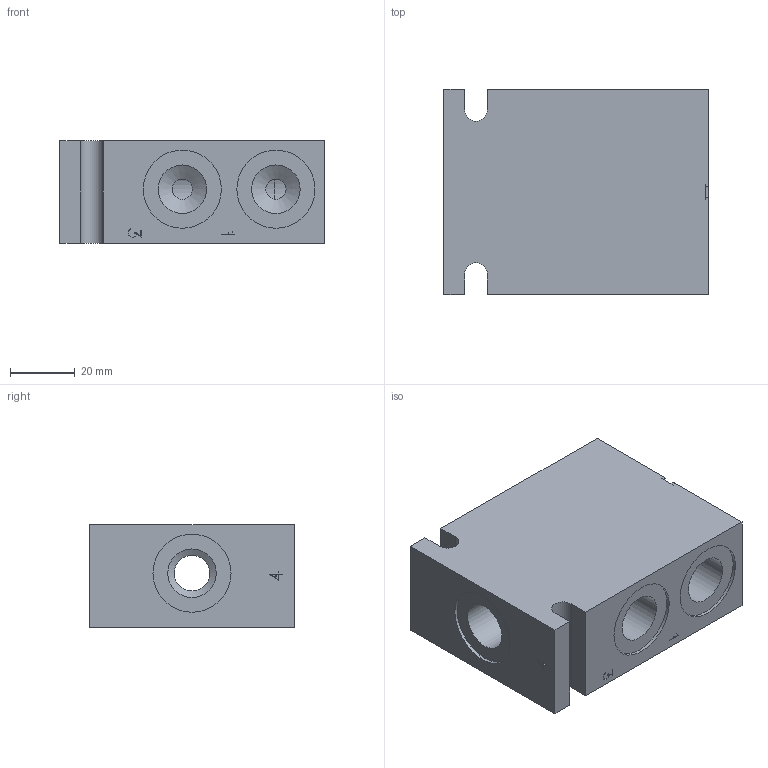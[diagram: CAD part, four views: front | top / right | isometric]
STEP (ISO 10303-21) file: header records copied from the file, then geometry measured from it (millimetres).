
FILE_DESCRIPTION( ( 'Unknown' ), '1' );
FILE_NAME( 'G:/Graphic Design/Graphic Design 2/Data Sheets/Delta Bodies/DRAWINGS/B-DPQB4.stp', 'Unknown', ( 'Unknown' ), ( 'Unknown' ), 'PSStep 16.0.42', 'Unknown', ' ' );
FILE_SCHEMA( ( 'AUTOMOTIVE_DESIGN { 1 0 10303 214 1 1 1 1 }' ) );
Length unit declared in the file: millimetre
Products named in the file (2): Assem1; B-DPQB4
Assembly tree (1 placements, depth 2):
  Assem1
    B-DPQB4
Bounding box: 82 x 63.5 x 31.75 mm (x, y, z)
Surface area: 26706.4 mm2 (no closed solid volume)
Topology: 0 solids, 146 shells, 146 faces, 713 edges, 677 vertices
Faces by surface type: plane 108, cylinder 28, cone 10
Full cylindrical faces by diameter (mm): 0.2 x4, 6.3 x3, 11 x1, 12.751 x1, 14.326 x1, 15 x8, 15.926 x1, 17.33 x2, 24.2 x4
Entity records: 7936 total; most frequent: CARTESIAN_POINT 2168, DIRECTION 738, ORIENTED_EDGE 660, EDGE_CURVE 660, VERTEX_POINT 660, B_SPLINE_CURVE_WITH_KNOTS 324, AXIS2_PLACEMENT_3D 254, LINE 230
